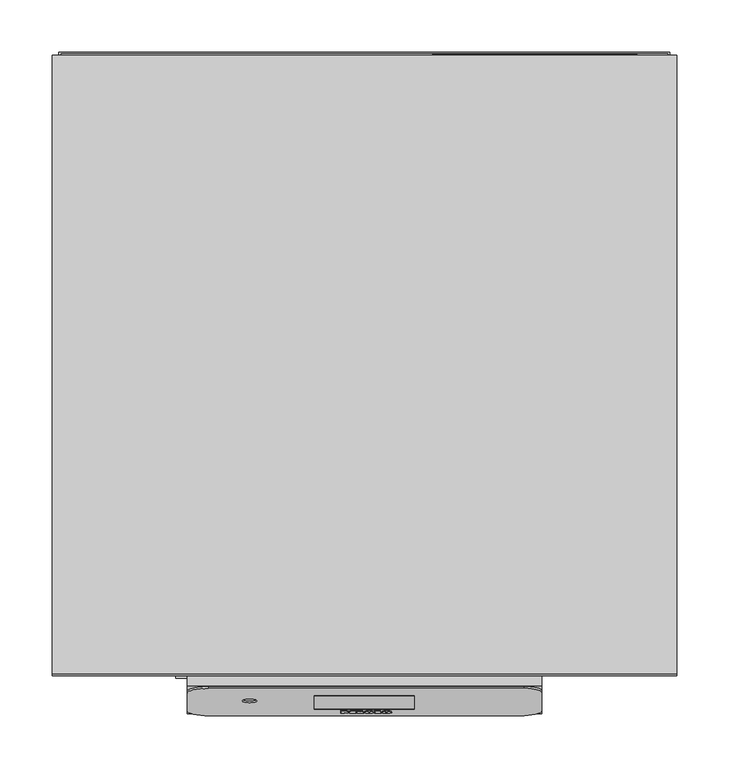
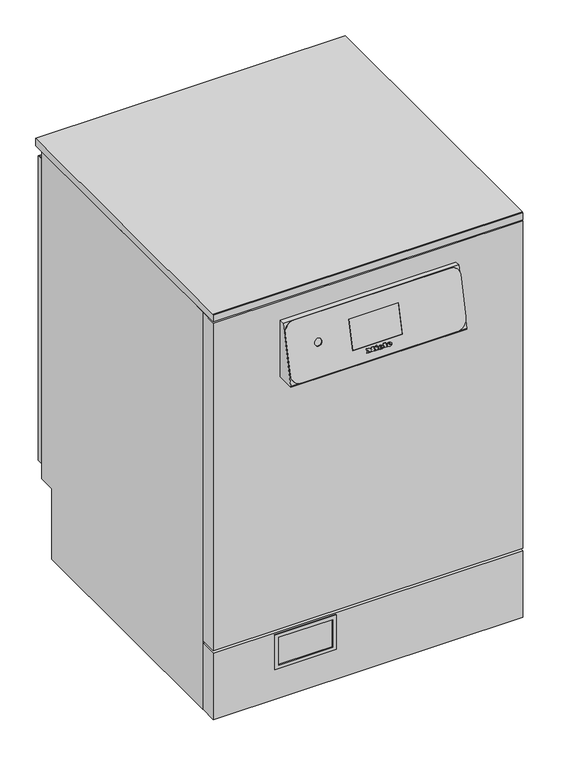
"""IFC4 building model written with IfcOpenShell, lengths in millimetres: proxy geometry, 12065300_DAC_PFD404_LW : 61040401_DAC_12065300_PFD404_LW."""

from ifc_helpers import new_model, si_unit, point, frame, frame_2d, origin, origin_with_axes, place, context, project, spatial, polyline, circle_curve, ellipse_curve, trimmed, segment, composite_curve, outline, extrude, faceted_brep, source, transform, mapped, element, save
from ifc_brep_helpers import plane_surface, cylinder_surface, revolved_surface, extruded_surface, advanced_brep


def specialty_equipment_717b9cd6(model_context):
    return source(origin(), model_context, "Body", "SolidModel", [
        advanced_brep(
        [(20.656, -35.3539089, 679.552071), (20.656, -35.1721485, 680.339362), (26.008, -35.1721485, 680.339362), (16.696, -35.1721485, 680.339362), (18.896, -35.7804161, 677.7046654), (25.872, -35.3539089, 679.552071), (23.456, -35.3539089, 679.552071), (21.552, -35.5554651, 678.6790354), (20.656, -34.9417986, 681.337117), (20.656, -34.7456413, 682.1867677), (22.024, -34.7456413, 682.1867677), (22.024, -34.9417986, 681.337117), (20.656, -34.3795388, 679.3271199), (21.552, -34.581095, 678.4540844), (23.456, -34.3795388, 679.3271199), (25.872, -34.3795388, 679.3271199), (18.896, -34.806046, 677.4797143), (16.696, -34.1977784, 680.114411), (26.008, -34.1977784, 680.114411), (20.656, -34.1977784, 680.114411), (20.656, -33.9674285, 681.1121659), (22.024, -33.9674285, 681.1121659), (22.024, -33.7712712, 681.9618166), (20.656, -33.7712712, 681.9618166)],
        [
            (0, 1),
            (1, 2),
            (2, 3, ellipse_curve(frame((21.352, -35.1721485, 680.339362), z_axis=(0.0, -0.9743700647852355, 0.22495105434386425), x_axis=(-1.0, 0.0, 0.0)), 4.656, 3.848)),
            (3, 4, circle_curve(frame((19.7920436, -35.1109618, 680.6043907), z_axis=(0.0, -0.9743700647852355, 0.22495105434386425), x_axis=(0.0, -0.22495105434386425, -0.9743700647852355)), 3.1079688)),
            (4, 5, circle_curve(frame((21.2587936, -34.6358651, 682.6622603), z_axis=(0.0, -0.9743700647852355, 0.22495105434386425), x_axis=(0.0, -0.22495105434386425, -0.9743700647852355)), 5.6098607)),
            (5, 6),
            (6, 7, circle_curve(frame((21.9430588, -35.1865453, 680.2770023), z_axis=(0.0, 0.9743700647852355, -0.22495105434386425), x_axis=(0.0, -0.22495105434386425, -0.9743700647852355)), 1.6859795)),
            (7, 0, circle_curve(frame((21.552, -35.3539089, 679.552071), z_axis=(0.0, 0.9743700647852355, -0.22495105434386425), x_axis=(0.0, -0.22495105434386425, -0.9743700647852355)), 0.896)),
            (8, 9),
            (9, 10, circle_curve(frame((21.34, -34.7456413, 682.1867677), z_axis=(0.0, 0.9743700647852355, -0.22495105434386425), x_axis=(0.0, -0.22495105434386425, -0.9743700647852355)), 0.684)),
            (10, 11),
            (11, 8),
            (12, 13, circle_curve(frame((21.552, -34.3795388, 679.3271199), z_axis=(0.0, -0.9743700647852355, 0.22495105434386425), x_axis=(0.0, -0.22495105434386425, -0.9743700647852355)), 0.896)),
            (13, 14, circle_curve(frame((21.9430588, -34.2121753, 680.0520513), z_axis=(0.0, -0.9743700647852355, 0.22495105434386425), x_axis=(0.0, -0.22495105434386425, -0.9743700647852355)), 1.6859795)),
            (14, 15),
            (15, 16, circle_curve(frame((21.2587936, -33.6614951, 682.4373092), z_axis=(0.0, 0.9743700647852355, -0.22495105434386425), x_axis=(0.0, -0.22495105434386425, -0.9743700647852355)), 5.6098607)),
            (16, 17, circle_curve(frame((19.7920436, -34.1365917, 680.3794396), z_axis=(0.0, 0.9743700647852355, -0.22495105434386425), x_axis=(0.0, -0.22495105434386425, -0.9743700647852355)), 3.1079688)),
            (17, 18, ellipse_curve(frame((21.352, -34.1977784, 680.114411), z_axis=(0.0, 0.9743700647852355, -0.22495105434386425), x_axis=(-1.0, 0.0, 0.0)), 4.656, 3.848)),
            (18, 19),
            (19, 12),
            (20, 21),
            (21, 22),
            (22, 23, circle_curve(frame((21.34, -33.7712712, 681.9618166), z_axis=(0.0, -0.9743700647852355, 0.22495105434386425), x_axis=(0.0, -0.22495105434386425, -0.9743700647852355)), 0.684)),
            (23, 20),
            (0, 12),
            (19, 1),
            (18, 2),
            (5, 15),
            (14, 6),
            (17, 3),
            (13, 7),
            (16, 4),
            (8, 20),
            (23, 9),
            (22, 10),
            (21, 11),
        ],
        [
            plane_surface(frame((20.656, -35.1721485, 680.339362), z_axis=(0.0, -0.9743700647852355, 0.22495105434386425), x_axis=(0.0, 0.22495105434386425, 0.9743700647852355))),
            plane_surface(frame((20.656, -34.1977784, 680.114411), z_axis=(0.0, 0.9743700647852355, -0.22495105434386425), x_axis=(0.0, -0.22495105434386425, -0.9743700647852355))),
            plane_surface(frame((20.656, -35.3539089, 679.552071), z_axis=(1.0, 0.0, 0.0), x_axis=(0.0, 0.9743700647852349, -0.22495105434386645))),
            plane_surface(frame((20.656, -35.1721485, 680.339362), z_axis=(0.0, -0.22495105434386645, -0.9743700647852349), x_axis=(0.0, 0.9743700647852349, -0.22495105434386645))),
            plane_surface(frame((25.872, -35.3539089, 679.552071), z_axis=(0.0, 0.22495105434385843, 0.9743700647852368), x_axis=(0.0, 0.9743700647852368, -0.22495105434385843))),
            extruded_surface(trimmed(ellipse_curve(frame((21.352, -33.2234083, 679.8894599), z_axis=(0.0, -0.9743700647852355, 0.22495105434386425), x_axis=(-1.0, 0.0, 0.0)), 4.656, 3.848), [point((26.008, -33.2234083, 679.8894599))], [point((16.696, -33.2234083, 679.8894599))], True, "CARTESIAN"), (0.0, -0.9743700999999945, 0.2249510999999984), 1.0000000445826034),
            revolved_surface(polyline([(21.9430588, -34.59143807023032, 678.4092833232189), (21.9430588, -35.56580822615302, 678.6342343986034)]), (21.9430588, -34.2121753, 680.0520513), (0.0, 0.9743700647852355, -0.22495105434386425)),
            revolved_surface(polyline([(21.552, -34.581094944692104, 678.4540843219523), (21.552, -35.5554651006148, 678.679035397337)]), (21.552, -34.3795388, 679.3271199), (0.0, 0.9743700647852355, -0.22495105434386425)),
            cylinder_surface(frame((19.7920436, -34.1365917, 680.3794396), z_axis=(0.0, -0.9743700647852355, 0.22495105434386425), x_axis=(0.0, -0.22495105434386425, -0.9743700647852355)), 3.1079688),
            cylinder_surface(frame((21.2587936, -33.6614951, 682.4373092), z_axis=(0.0, -0.9743700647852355, 0.22495105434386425), x_axis=(0.0, -0.22495105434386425, -0.9743700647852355)), 5.6098607),
            plane_surface(frame((20.656, -34.9417986, 681.337117), z_axis=(1.0, 0.0, 0.0), x_axis=(0.0, 0.9743700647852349, -0.22495105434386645))),
            revolved_surface(polyline([(21.34, -33.925137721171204, 681.2953474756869), (21.34, -34.8995078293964, 681.5202985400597)]), (21.34, -33.7712712, 681.9618166), (0.0, 0.9743700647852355, -0.22495105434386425)),
            plane_surface(frame((22.024, -34.7456413, 682.1867677), z_axis=(-1.0, 0.0, 0.0), x_axis=(0.0, 0.9743700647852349, -0.22495105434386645))),
            plane_surface(frame((22.024, -34.9417986, 681.337117), z_axis=(0.0, 0.22495105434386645, 0.9743700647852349), x_axis=(0.0, 0.9743700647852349, -0.22495105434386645))),
        ],
        [
            (0, [[1, 2, 3, 4, 5, 6, 7, 8], [9, 10, 11, 12]]),
            (1, [[13, 14, 15, 16, 17, 18, 19, 20], [21, 22, 23, 24]]),
            (2, [[-1, 25, -20, 26]]),
            (3, [[-2, -26, -19, 27]]),
            (4, [[-6, 28, -15, 29]]),
            (5, [[-3, -27, -18, 30]]),
            (6, [[-7, -29, -14, 31]]),
            (7, [[-8, -31, -13, -25]]),
            (8, [[-4, -30, -17, 32]]),
            (9, [[-5, -32, -16, -28]]),
            (10, [[-9, 33, -24, 34]]),
            (11, [[-10, -34, -23, 35]]),
            (12, [[-11, -35, -22, 36]]),
            (13, [[-12, -36, -21, -33]]),
        ],
    ),
        advanced_brep(
        [(3.96, -35.3539089, 679.552071), (3.96, -35.1721485, 680.339362), (9.312, -35.1721485, 680.339362), (0.0, -35.1721485, 680.339362), (2.2, -35.7804161, 677.7046654), (9.176, -35.3539089, 679.552071), (6.76, -35.3539089, 679.552071), (4.856, -35.5554651, 678.6790354), (3.96, -34.9417986, 681.337117), (3.96, -34.7456413, 682.1867677), (5.328, -34.7456413, 682.1867677), (5.328, -34.9417986, 681.337117), (3.96, -34.3795388, 679.3271199), (4.856, -34.581095, 678.4540844), (6.76, -34.3795388, 679.3271199), (9.176, -34.3795388, 679.3271199), (2.2, -34.806046, 677.4797143), (0.0, -34.1977784, 680.114411), (9.312, -34.1977784, 680.114411), (3.96, -34.1977784, 680.114411), (3.96, -33.9674285, 681.1121659), (5.328, -33.9674285, 681.1121659), (5.328, -33.7712712, 681.9618166), (3.96, -33.7712712, 681.9618166)],
        [
            (0, 1),
            (1, 2),
            (2, 3, ellipse_curve(frame((4.656, -35.1721485, 680.339362), z_axis=(0.0, -0.9743700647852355, 0.22495105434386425), x_axis=(-1.0, 0.0, 0.0)), 4.656, 3.848)),
            (3, 4, circle_curve(frame((3.0960436, -35.1109618, 680.6043907), z_axis=(0.0, -0.9743700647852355, 0.22495105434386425), x_axis=(0.0, -0.22495105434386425, -0.9743700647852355)), 3.1079688)),
            (4, 5, circle_curve(frame((4.5627936, -34.6358651, 682.6622603), z_axis=(0.0, -0.9743700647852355, 0.22495105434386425), x_axis=(0.0, -0.22495105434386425, -0.9743700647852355)), 5.6098607)),
            (5, 6),
            (6, 7, circle_curve(frame((5.2470588, -35.1865453, 680.2770023), z_axis=(0.0, 0.9743700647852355, -0.22495105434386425), x_axis=(0.0, -0.22495105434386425, -0.9743700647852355)), 1.6859795)),
            (7, 0, circle_curve(frame((4.856, -35.3539089, 679.552071), z_axis=(0.0, 0.9743700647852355, -0.22495105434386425), x_axis=(0.0, -0.22495105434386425, -0.9743700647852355)), 0.896)),
            (8, 9),
            (9, 10, circle_curve(frame((4.644, -34.7456413, 682.1867677), z_axis=(0.0, 0.9743700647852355, -0.22495105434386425), x_axis=(0.0, -0.22495105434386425, -0.9743700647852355)), 0.684)),
            (10, 11),
            (11, 8),
            (12, 13, circle_curve(frame((4.856, -34.3795388, 679.3271199), z_axis=(0.0, -0.9743700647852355, 0.22495105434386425), x_axis=(0.0, -0.22495105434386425, -0.9743700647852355)), 0.896)),
            (13, 14, circle_curve(frame((5.2470588, -34.2121753, 680.0520513), z_axis=(0.0, -0.9743700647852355, 0.22495105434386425), x_axis=(0.0, -0.22495105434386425, -0.9743700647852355)), 1.6859795)),
            (14, 15),
            (15, 16, circle_curve(frame((4.5627936, -33.6614951, 682.4373092), z_axis=(0.0, 0.9743700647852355, -0.22495105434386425), x_axis=(0.0, -0.22495105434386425, -0.9743700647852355)), 5.6098607)),
            (16, 17, circle_curve(frame((3.0960436, -34.1365917, 680.3794396), z_axis=(0.0, 0.9743700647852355, -0.22495105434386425), x_axis=(0.0, -0.22495105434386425, -0.9743700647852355)), 3.1079688)),
            (17, 18, ellipse_curve(frame((4.656, -34.1977784, 680.114411), z_axis=(0.0, 0.9743700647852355, -0.22495105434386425), x_axis=(-1.0, 0.0, 0.0)), 4.656, 3.848)),
            (18, 19),
            (19, 12),
            (20, 21),
            (21, 22),
            (22, 23, circle_curve(frame((4.644, -33.7712712, 681.9618166), z_axis=(0.0, -0.9743700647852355, 0.22495105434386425), x_axis=(0.0, -0.22495105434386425, -0.9743700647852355)), 0.684)),
            (23, 20),
            (0, 12),
            (19, 1),
            (18, 2),
            (5, 15),
            (14, 6),
            (17, 3),
            (13, 7),
            (16, 4),
            (8, 20),
            (23, 9),
            (22, 10),
            (21, 11),
        ],
        [
            plane_surface(frame((3.96, -35.1721485, 680.339362), z_axis=(0.0, -0.9743700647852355, 0.22495105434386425), x_axis=(0.0, 0.22495105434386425, 0.9743700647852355))),
            plane_surface(frame((3.96, -34.1977784, 680.114411), z_axis=(0.0, 0.9743700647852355, -0.22495105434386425), x_axis=(0.0, -0.22495105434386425, -0.9743700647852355))),
            plane_surface(frame((3.96, -35.3539089, 679.552071), z_axis=(1.0, 0.0, 0.0), x_axis=(0.0, 0.9743700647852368, -0.22495105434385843))),
            plane_surface(frame((3.96, -35.1721485, 680.339362), z_axis=(0.0, -0.22495105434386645, -0.9743700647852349), x_axis=(0.0, 0.9743700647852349, -0.22495105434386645))),
            plane_surface(frame((9.176, -35.3539089, 679.552071), z_axis=(0.0, 0.22495105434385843, 0.9743700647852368), x_axis=(0.0, 0.9743700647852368, -0.22495105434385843))),
            extruded_surface(trimmed(ellipse_curve(frame((4.656, -33.2234083, 679.8894599), z_axis=(0.0, -0.9743700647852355, 0.22495105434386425), x_axis=(-1.0, 0.0, 0.0)), 4.656, 3.848), [point((9.312, -33.2234083, 679.8894599))], [point((0.0, -33.2234083, 679.8894599))], True, "CARTESIAN"), (0.0, -0.9743700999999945, 0.2249510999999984), 1.0000000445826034),
            revolved_surface(polyline([(5.2470588, -34.59143807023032, 678.4092833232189), (5.2470588, -35.56580822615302, 678.6342343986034)]), (5.2470588, -34.2121753, 680.0520513), (0.0, 0.9743700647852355, -0.22495105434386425)),
            revolved_surface(polyline([(4.856, -34.581094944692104, 678.4540843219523), (4.856, -35.5554651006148, 678.679035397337)]), (4.856, -34.3795388, 679.3271199), (0.0, 0.9743700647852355, -0.22495105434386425)),
            cylinder_surface(frame((3.0960436, -34.1365917, 680.3794396), z_axis=(0.0, -0.9743700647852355, 0.22495105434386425), x_axis=(0.0, -0.22495105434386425, -0.9743700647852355)), 3.1079688),
            cylinder_surface(frame((4.5627936, -33.6614951, 682.4373092), z_axis=(0.0, -0.9743700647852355, 0.22495105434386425), x_axis=(0.0, -0.22495105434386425, -0.9743700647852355)), 5.6098607),
            plane_surface(frame((3.96, -34.9417986, 681.337117), z_axis=(1.0, 0.0, 0.0), x_axis=(0.0, 0.9743700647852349, -0.22495105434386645))),
            revolved_surface(polyline([(4.644, -33.925137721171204, 681.2953474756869), (4.644, -34.8995078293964, 681.5202985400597)]), (4.644, -33.7712712, 681.9618166), (0.0, 0.9743700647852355, -0.22495105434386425)),
            plane_surface(frame((5.328, -34.7456413, 682.1867677), z_axis=(-1.0, 0.0, 0.0), x_axis=(0.0, 0.9743700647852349, -0.22495105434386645))),
            plane_surface(frame((5.328, -34.9417986, 681.337117), z_axis=(0.0, 0.22495105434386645, 0.9743700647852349), x_axis=(0.0, 0.9743700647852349, -0.22495105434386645))),
        ],
        [
            (0, [[1, 2, 3, 4, 5, 6, 7, 8], [9, 10, 11, 12]]),
            (1, [[13, 14, 15, 16, 17, 18, 19, 20], [21, 22, 23, 24]]),
            (2, [[-1, 25, -20, 26]]),
            (3, [[-2, -26, -19, 27]]),
            (4, [[-6, 28, -15, 29]]),
            (5, [[-3, -27, -18, 30]]),
            (6, [[-7, -29, -14, 31]]),
            (7, [[-8, -31, -13, -25]]),
            (8, [[-4, -30, -17, 32]]),
            (9, [[-5, -32, -16, -28]]),
            (10, [[-9, 33, -24, 34]]),
            (11, [[-10, -34, -23, 35]]),
            (12, [[-11, -35, -22, 36]]),
            (13, [[-12, -36, -21, -33]]),
        ],
    ),
        extrude(outline(polyline([(0.0, 0.0), (-0.0109087, -2.9993294), (-1.4390415, -2.9920868), (-1.4315307, 0.0), (0.0, 0.0)])), frame((-4.784, -33.1126145, 684.8147722), z_axis=(0.0, -0.9743700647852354, 0.22495105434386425), x_axis=(-0.42472021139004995, 0.20365373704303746, 0.8821212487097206)), (0.0, 0.0, 1.0), 1.0),
        extrude(outline(polyline([(-0.4933908, 2.4141097), (-2.7800844, -2.4601583), (-7.0459742, -0.4588767), (-7.4401146, -1.2990179), (-8.6568709, -0.728194), (-5.9760369, 4.9862153), (-4.7592806, 4.4153913), (-5.1636142, 3.5535222), (-2.1941494, 2.16044), (-1.7898157, 3.022309), (-0.4933908, 2.4141097)])), frame((-4.784, -33.1126145, 684.8147722), z_axis=(0.0, -0.9743700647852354, 0.22495105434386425), x_axis=(-0.42472021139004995, 0.20365373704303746, 0.8821212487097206)), (0.0, 0.0, 1.0), 1.0),
        extrude(outline(polyline([(0.0, 0.0), (0.0, -1.3039999), (-5.504, -1.3039999), (-5.504, 5.352), (-6.488, 5.352), (-6.488, 6.696), (0.0, 6.696), (0.0, 5.352), (-0.96, 5.352), (-0.96, 0.0), (0.0, 0.0)])), frame((9.76, -33.2997738, 684.0040963), z_axis=(0.0, -0.9743700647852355, 0.22495105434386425), x_axis=(-1.0, 0.0, 0.0)), (0.0, 0.0, 1.0), 1.0),
        extrude(outline(polyline([(0.0, 0.0), (0.0, -1.3039999), (-5.576, -1.3039999), (-7.92, 1.6960001), (-10.256, -1.3039999), (-15.128, -1.3039999), (-15.128, 0.0), (-14.112, 0.0), (-14.112, 5.352), (-15.128, 5.352), (-15.128, 6.696), (-8.744, 6.696), (-8.744, 5.352), (-9.728, 5.352), (-9.728, 1.8807777), (-6.136, 6.696), (-2.56, 1.9488752), (-2.56, 5.352), (-3.52, 5.352), (-3.52, 6.696), (0.0, 6.696), (0.0, 5.352), (-0.968, 5.352), (-0.968, 0.0), (0.0, 0.0)])), frame((-22.704, -33.2997738, 684.0040963), z_axis=(0.0, -0.9743700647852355, 0.22495105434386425), x_axis=(-1.0, 0.0, 0.0)), (0.0, 0.0, 1.0), 1.0),
        extrude(outline(polyline([(1.7745866, 832.3), (594.2, 832.3), (594.2, 817.0), (0.2, 817.0), (0.2, 830.7254134), (1.7745866, 832.3)])), frame((-299.0, 0.0, 0.0), z_axis=(1.0, 0.0, 0.0), x_axis=(0.0, 1.0, 0.0)), (0.0, 0.0, 1.0), 598.0),
        extrude(outline(polyline([(-0.1038681, 775.5857792), (-0.1038681, 660.0), (-36.1981904, 660.0), (-36.1981904, 662.5588517), (-10.1038681, 775.5857792), (-0.1038681, 775.5857792)])), frame((-169.8831565, 0.0, 0.0), z_axis=(1.0, 0.0, 0.0), x_axis=(0.0, 1.0, 0.0)), (0.0, 0.0, 1.0), 339.766313),
        extrude(outline(polyline([(137.0, -180.8556958), (66.1019991, -180.8556958), (66.1019991, -62.1493684), (137.0, -62.1493684), (137.0, -180.8556958)]), holes=[polyline([(129.5988213, -69.1491757), (73.0575068, -69.1491757), (73.0575068, -173.1990884), (129.5988213, -173.1990884), (129.5988213, -69.1491757)])]), frame((0.0, -2.0, 0.0), z_axis=(0.0, 1.0, 0.0), x_axis=(0.0, 0.0, 1.0)), (0.0, 0.0, 1.0), 2.0),
        extrude(outline(polyline([(299.0, 34.0), (299.0, 0.0), (-299.0, 0.0), (-299.0, 34.0), (299.0, 34.0)])), frame((0.0, 0.0, 4.5), z_axis=(0.0, 0.0, 1.0), x_axis=(1.0, 0.0, 0.0)), (0.0, 0.0, 1.0), 135.5),
        extrude(outline(polyline([(299.0, 34.0), (299.0, 0.0), (-299.0, 0.0), (-299.0, 34.0), (299.0, 34.0)])), frame((0.0, 0.0, 145.0), z_axis=(0.0, 0.0, 1.0), x_axis=(1.0, 0.0, 0.0)), (0.0, 0.0, 1.0), 670.0),
        advanced_brep(
        [(153.3281651, -12.0526082, 776.0356813), (-148.8831565, -12.0526082, 776.0356813), (-169.8831565, -16.7765804, 755.57391), (-169.8831565, -33.4229584, 683.4705252), (-148.8831565, -38.1469305, 663.0087538), (148.8831565, -38.1469305, 663.0087538), (169.8831565, -33.4229584, 683.4705252), (169.8831565, -15.776671, 759.9049933), (48.0, -18.9868916, 746.0), (48.0, -31.9155103, 690.0), (-48.0, -31.9155103, 690.0), (-48.0, -18.9868916, 746.0), (-102.8831565, -24.0088923, 724.2473253), (-116.8831565, -24.0088923, 724.2473253), (148.8831565, -36.1981904, 662.5588517), (169.8831565, -31.4742182, 683.0206231), (169.8831565, -13.8279308, 759.4550912), (153.3281651, -10.1038681, 775.5857792), (48.0, -16.9342834, 746.0), (48.0, -29.8629021, 690.0), (-48.0, -29.8629021, 690.0), (-48.0, -16.9342834, 746.0), (-148.8831565, -36.1981904, 662.5588517), (-169.8831565, -31.4742182, 683.0206231), (-169.8831565, -14.8278402, 755.1240079), (-148.8831565, -10.1038681, 775.5857792), (-116.8831565, -22.4281396, 723.8823798), (-102.8831565, -22.4281396, 723.8823798)],
        [
            (0, 1),
            (1, 2, circle_curve(frame((-148.8831565, -16.7765804, 755.57391), z_axis=(0.0, -0.9743700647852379, 0.22495105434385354), x_axis=(1.0, 0.0, 0.0)), 21.0)),
            (2, 3),
            (3, 4, circle_curve(frame((-148.8831565, -33.4229584, 683.4705252), z_axis=(0.0, -0.9743700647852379, 0.22495105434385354), x_axis=(1.0, 0.0, 0.0)), 21.0)),
            (4, 5),
            (5, 6, circle_curve(frame((148.8831565, -33.4229584, 683.4705252), z_axis=(0.0, -0.9743700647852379, 0.22495105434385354), x_axis=(1.0, 0.0, 0.0)), 21.0)),
            (6, 7),
            (7, 0, circle_curve(frame((153.3281651, -15.776671, 759.9049933), z_axis=(0.0, -0.9743700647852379, 0.22495105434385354), x_axis=(1.0, 0.0, 0.0)), 16.5549913)),
            (8, 9),
            (9, 10),
            (10, 11),
            (11, 8),
            (12, 13, circle_curve(frame((-109.8831565, -24.0088923, 724.2473253), z_axis=(0.0, 0.9743700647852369, -0.22495105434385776), x_axis=(1.0, 0.0, 0.0)), 7.0)),
            (13, 12, circle_curve(frame((-109.8831565, -24.0088923, 724.2473253), z_axis=(0.0, 0.9743700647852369, -0.22495105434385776), x_axis=(1.0, 0.0, 0.0)), 7.0)),
            (5, 14),
            (14, 15, circle_curve(frame((148.8831565, -31.4742182, 683.0206231), z_axis=(0.0, -0.9743700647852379, 0.22495105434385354), x_axis=(1.0, 0.0, 0.0)), 21.0)),
            (15, 6),
            (15, 16),
            (16, 7),
            (16, 17, circle_curve(frame((153.3281651, -13.8279308, 759.4550912), z_axis=(0.0, -0.9743700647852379, 0.22495105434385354), x_axis=(1.0, 0.0, 0.0)), 16.5549913)),
            (17, 0),
            (8, 18),
            (18, 19),
            (19, 9),
            (19, 20),
            (20, 10),
            (11, 21),
            (21, 18),
            (20, 21),
            (14, 22),
            (22, 23, circle_curve(frame((-148.8831565, -31.4742182, 683.0206231), z_axis=(0.0, 0.9743700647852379, -0.22495105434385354), x_axis=(1.0, 0.0, 0.0)), 21.0)),
            (23, 24),
            (24, 25, circle_curve(frame((-148.8831565, -14.8278402, 755.1240079), z_axis=(0.0, 0.9743700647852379, -0.22495105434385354), x_axis=(1.0, 0.0, 0.0)), 21.0)),
            (25, 17),
            (25, 1),
            (24, 2),
            (23, 3),
            (22, 4),
            (26, 27, circle_curve(frame((-109.8831565, -22.4281396, 723.8823798), z_axis=(0.0, -0.9743700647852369, 0.22495105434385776), x_axis=(1.0, 0.0, 0.0)), 7.0)),
            (27, 26, circle_curve(frame((-109.8831565, -22.4281396, 723.8823798), z_axis=(0.0, -0.9743700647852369, 0.22495105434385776), x_axis=(1.0, 0.0, 0.0)), 7.0)),
            (26, 13),
            (12, 27),
        ],
        [
            plane_surface(frame((-166.8819453, -12.0526082, 776.0356813), z_axis=(0.0, -0.9743700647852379, 0.22495105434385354), x_axis=(-1.0, 0.0, 0.0))),
            cylinder_surface(frame((148.8831565, -31.4742182, 683.0206231), z_axis=(0.0, -0.9743700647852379, 0.22495105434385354), x_axis=(1.0, 0.0, 0.0)), 21.0),
            plane_surface(frame((169.8831565, -33.4229584, 683.4705252), z_axis=(1.0000000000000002, 0.0, 0.0), x_axis=(0.0, 0.9743700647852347, -0.22495105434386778))),
            cylinder_surface(frame((153.3281651, -13.8279308, 759.4550912), z_axis=(0.0, -0.9743700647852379, 0.22495105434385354), x_axis=(1.0, 0.0, 0.0)), 16.5549913),
            plane_surface(frame((48.0, -31.9155103, 690.0), z_axis=(-1.0, 0.0, 0.0), x_axis=(0.0, 1.0, 0.0))),
            plane_surface(frame((48.0, -31.9155103, 690.0), z_axis=(0.0, 0.0, 1.0), x_axis=(-1.0, 0.0, 0.0))),
            plane_surface(frame((48.0, -16.9342834, 746.0), z_axis=(0.0, 0.0, -1.0), x_axis=(-1.0, 0.0, 0.0))),
            plane_surface(frame((-48.0, -31.9155103, 690.0), z_axis=(1.0, 0.0, 0.0), x_axis=(0.0, -1.0, 0.0))),
            plane_surface(frame((-166.8819453, -10.1038681, 775.5857792), z_axis=(0.0, 0.9743700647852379, -0.22495105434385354), x_axis=(1.0, 0.0, 0.0))),
            plane_surface(frame((153.3281651, -12.0526082, 776.0356813), z_axis=(0.0, 0.22495105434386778, 0.9743700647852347), x_axis=(0.0, 0.9743700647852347, -0.22495105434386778))),
            cylinder_surface(frame((-148.8831565, -14.8278402, 755.1240079), z_axis=(0.0, -0.9743700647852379, 0.22495105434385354), x_axis=(1.0, 0.0, 0.0)), 21.0),
            plane_surface(frame((-169.8831565, -16.7765804, 755.57391), z_axis=(-1.0, 0.0, 0.0), x_axis=(0.0, 0.9743700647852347, -0.22495105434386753))),
            cylinder_surface(frame((-148.8831565, -31.4742182, 683.0206231), z_axis=(0.0, -0.9743700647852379, 0.22495105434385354), x_axis=(1.0, 0.0, 0.0)), 21.0),
            plane_surface(frame((-148.8831565, -38.1469305, 663.0087538), z_axis=(0.0, -0.22495105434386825, -0.9743700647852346), x_axis=(0.0, 0.9743700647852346, -0.22495105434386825))),
            plane_surface(frame((-102.8831565, -22.4281396, 723.8823798), z_axis=(0.0, -0.9743700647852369, 0.2249510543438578), x_axis=(0.0, -0.2249510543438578, -0.9743700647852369))),
            revolved_surface(polyline([(-102.8831565, -24.008892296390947, 724.2473253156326), (-102.8831565, -22.4281396, 723.8823798)]), (-109.8831565, -22.4281396, 723.8823798), (0.0, -0.9743700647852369, 0.22495105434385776)),
        ],
        [
            (0, [[1, 2, 3, 4, 5, 6, 7, 8], [9, 10, 11, 12], [13, 14]]),
            (1, [[-6, 15, 16, 17]]),
            (2, [[-7, -17, 18, 19]]),
            (3, [[-8, -19, 20, 21]]),
            (4, [[22, 23, 24, -9]]),
            (5, [[-24, 25, 26, -10]]),
            (6, [[-22, -12, 27, 28]]),
            (7, [[-26, 29, -27, -11]]),
            (8, [[-20, -18, -16, 30, 31, 32, 33, 34], [-23, -28, -29, -25]]),
            (9, [[-1, -21, -34, 35]]),
            (10, [[-2, -35, -33, 36]]),
            (11, [[-3, -36, -32, 37]]),
            (12, [[-4, -37, -31, 38]]),
            (13, [[-5, -38, -30, -15]]),
            (14, [[39, 40]]),
            (15, [[-39, 41, -13, 42]]),
            (15, [[-40, -42, -14, -41]]),
        ],
    ),
        extrude(outline(polyline([(-29.8629021, 690.0), (-31.9155103, 690.0), (-18.9868916, 746.0), (-16.9342834, 746.0), (-29.8629021, 690.0)])), frame((-48.0, 0.0, 0.0), z_axis=(1.0, 0.0, 0.0), x_axis=(0.0, 1.0, 0.0)), (0.0, 0.0, 1.0), 96.0),
        extrude(outline(polyline([(35.0, 817.0), (575.0, 817.0), (575.0, 148.0), (541.0, 148.0), (541.0, 4.2000122), (35.0, 4.2000122), (35.0, 817.0)])), frame((-299.0, 0.0, 0.0), z_axis=(1.0, 0.0, 0.0), x_axis=(0.0, 1.0, 0.0)), (0.0, 0.0, 1.0), 598.0),
        extrude(outline(polyline([(-172.0947306, 541.0), (-252.9150967, 541.0), (-252.9150967, 546.8796322), (-172.0947306, 546.8796322), (-172.0947306, 541.0)])), frame((0.0, 0.0, 83.2113443), z_axis=(0.0, 0.0, 1.0), x_axis=(1.0, 0.0, 0.0)), (0.0, 0.0, 1.0), 9.5402229),
        extrude(outline(polyline([(-172.0947306, 541.0), (-252.9150967, 541.0), (-252.9150967, 546.8796322), (-172.0947306, 546.8796322), (-172.0947306, 541.0)])), frame((0.0, 0.0, 67.2113431), z_axis=(0.0, 0.0, 1.0), x_axis=(1.0, 0.0, 0.0)), (0.0, 0.0, 1.0), 9.5826234),
        extrude(outline(polyline([(-172.0947306, 541.0), (-252.9150967, 541.0), (-252.9150967, 546.8796322), (-172.0947306, 546.8796322), (-172.0947306, 541.0)])), frame((0.0, 0.0, 49.1113767), z_axis=(0.0, 0.0, 1.0), x_axis=(1.0, 0.0, 0.0)), (0.0, 0.0, 1.0), 11.5700235),
        faceted_brep([(292.4999939, 597.3069992, 792.0057337), (-292.5000061, 597.3069992, 792.0057337), (-292.5000061, 575.0, 792.0057337), (-291.0000061, 575.0, 792.0057337), (-291.0000061, 596.3069992, 792.0057337), (290.9999949, 596.3069992, 792.0057337), (290.9999949, 575.0, 792.0057337), (292.4999939, 575.0, 792.0057337), (292.4999939, 597.3069992, 170.291519), (292.4999939, 575.0, 170.291519), (290.9999949, 575.0, 170.291519), (290.9999949, 596.3069992, 170.291519), (-291.0000061, 596.3069992, 170.291519), (-291.0000061, 575.0, 170.291519), (-292.5000061, 575.0, 170.291519), (-292.5000061, 597.3069992, 170.291519), (-200.000102, 597.3069992, 319.6113699), (-200.000102, 597.3069992, 244.365213), (-125.000102, 597.3069992, 244.365213), (-125.000102, 597.3069992, 319.6113699), (-200.000102, 596.3069992, 244.365213), (-200.000102, 596.3069992, 319.6113699), (-125.000102, 596.3069992, 319.6113699), (-125.000102, 596.3069992, 244.365213)], [[[0, 1, 2, 3, 4, 5, 6, 7]], [[8, 9, 10, 11, 12, 13, 14, 15]], [[1, 0, 8, 15], [16, 17, 18, 19]], [[2, 1, 15, 14]], [[3, 2, 14, 13]], [[4, 3, 13, 12]], [[5, 4, 12, 11], [20, 21, 22, 23]], [[6, 5, 11, 10]], [[7, 6, 10, 9]], [[0, 7, 9, 8]], [[20, 17, 16, 21]], [[17, 20, 23, 18]], [[18, 23, 22, 19]], [[21, 16, 19, 22]]]),
        extrude(outline(polyline([(48.0999756, 96.1730873), (58.1456066, 98.9125818), (58.1456066, 97.6176372), (51.5433511, 96.028387), (49.5052848, 95.5378777), (51.3079066, 95.0130327), (58.1456066, 93.0215648), (58.1456066, 91.1551768), (53.1890099, 89.7081743), (49.5052848, 88.6315064), (51.4844899, 88.1557123), (58.1456066, 86.5517468), (58.1456066, 85.2568022), (48.0999756, 87.9987493), (48.0999756, 89.3402923), (55.850023, 91.7486931), (56.931596, 92.084692), (55.6292938, 92.4623842), (48.0999756, 94.6574134), (48.0999756, 96.1730873)])), frame((0.0, 571.0, 0.0), z_axis=(0.0, 1.0, 0.0), x_axis=(0.0, 0.0, 1.0)), (0.0, 0.0, 1.0), 1.0),
        extrude(outline(polyline([(48.0999756, 82.2033816), (58.1456066, 84.9428762), (58.1456066, 83.6479316), (51.5433511, 82.0586814), (49.5052848, 81.568172), (51.3079066, 81.0433271), (58.1456066, 79.0518592), (58.1456066, 77.1854712), (53.1890099, 75.7384687), (49.5052848, 74.6618007), (51.4844899, 74.1860067), (58.1456066, 72.5820412), (58.1456066, 71.2870966), (48.0999756, 74.0290437), (48.0999756, 75.3705867), (55.850023, 77.7789875), (56.931596, 78.1149864), (55.6292938, 78.4926786), (48.0999756, 80.6877078), (48.0999756, 82.2033816)])), frame((0.0, 571.0, 0.0), z_axis=(0.0, 1.0, 0.0), x_axis=(0.0, 0.0, 1.0)), (0.0, 0.0, 1.0), 1.0),
        extrude(outline(polyline([(56.599963, 201.5578418), (66.645594, 204.2973364), (66.645594, 203.0023917), (60.0433385, 201.4131415), (58.0052722, 200.9226322), (59.807894, 200.3977872), (66.645594, 198.4063193), (66.645594, 196.5399313), (61.6889973, 195.0929288), (58.0052722, 194.0162609), (59.9844773, 193.5404668), (66.645594, 191.9365013), (66.645594, 190.6415567), (56.599963, 193.3835038), (56.599963, 194.7250468), (64.3500104, 197.1334476), (65.4315834, 197.4694465), (64.1292812, 197.8471387), (56.599963, 200.0421679), (56.599963, 201.5578418)])), frame((0.0, 571.0, 0.0), z_axis=(0.0, 1.0, 0.0), x_axis=(0.0, 0.0, 1.0)), (0.0, 0.0, 1.0), 1.0),
        extrude(outline(polyline([(56.599963, 212.6163745), (66.645594, 212.6163745), (66.645594, 211.3606707), (61.728238, 211.3606707), (66.645594, 206.2103227), (66.645594, 204.4542993), (62.5155055, 208.7781391), (56.599963, 204.2973364), (56.599963, 205.8326305), (61.6669243, 209.6684135), (60.0531487, 211.3606707), (56.599963, 211.3606707), (56.599963, 212.6163745)])), frame((0.0, 571.0, 0.0), z_axis=(0.0, 1.0, 0.0), x_axis=(0.0, 0.0, 1.0)), (0.0, 0.0, 1.0), 1.0),
        extrude(outline(composite_curve([segment(trimmed(circle_curve(frame_2d((61.599963, 202.0998546)), 8.0), [point((61.599963, 194.0998546))], [point((61.599963, 210.0998546))], False, "CARTESIAN"), True, "CONTINUOUS"), segment(trimmed(circle_curve(frame_2d((61.599963, 202.0998546)), 8.0), [point((61.599963, 210.0998546))], [point((61.599963, 194.0998546))], False, "CARTESIAN"), True, "CONTINUOUS")], self_intersect=False)), frame((0.0, 541.0, 0.0), z_axis=(0.0, 1.0, 0.0), x_axis=(0.0, 0.0, 1.0)), (0.0, 0.0, 1.0), 30.0),
        extrude(outline(polyline([(61.1702758, 140.618963), (71.2159068, 140.618963), (71.2159068, 133.3986657), (69.960203, 133.3986657), (69.960203, 139.3632591), (66.9779062, 139.3632591), (66.9779062, 133.7125916), (65.7222024, 133.7125916), (65.7222024, 139.3632591), (62.4259797, 139.3632591), (62.4259797, 133.2417027), (61.1702758, 133.2417027), (61.1702758, 140.618963)])), frame((0.0, 571.0, 0.0), z_axis=(0.0, 1.0, 0.0), x_axis=(0.0, 0.0, 1.0)), (0.0, 0.0, 1.0), 1.0),
        extrude(outline(polyline([(61.1702758, 131.3581469), (71.2159068, 131.3581469), (71.2159068, 130.102443), (62.4259797, 130.102443), (62.4259797, 125.0796275), (61.1702758, 125.0796275), (61.1702758, 131.3581469)])), frame((0.0, 571.0, 0.0), z_axis=(0.0, 1.0, 0.0), x_axis=(0.0, 0.0, 1.0)), (0.0, 0.0, 1.0), 1.0),
        extrude(outline(polyline([(118.1398187, 18.2077062), (128.1854497, 18.2077062), (128.1854497, 14.7422578), (128.0407495, 12.9494462), (127.3221533, 11.4730132), (125.6053707, 10.283528), (123.2165903, 9.888668), (121.1895605, 10.1559956), (119.7266164, 10.8427087), (118.8154953, 11.7599611), (118.311497, 12.9604827), (118.1398187, 14.5754846), (118.1398187, 18.2077062)]), holes=[polyline([(119.3955226, 16.9520023), (119.3955226, 14.7299951), (119.5770111, 13.1137669), (120.0895933, 12.1817991), (121.3367133, 11.4178309), (123.2362106, 11.1443719), (125.6151809, 11.6802533), (126.728637, 12.9837819), (126.9297459, 14.7643307), (126.9297459, 16.9520023), (119.3955226, 16.9520023)])]), frame((0.0, 571.0, 0.0), z_axis=(0.0, 1.0, 0.0), x_axis=(0.0, 0.0, 1.0)), (0.0, 0.0, 1.0), 1.0),
        extrude(outline(polyline([(121.5930044, 8.6329642), (121.5930044, 7.3772603), (120.3360742, 6.9725901), (119.5414491, 5.9842138), (119.2385596, 4.4783502), (119.4678727, 3.1662377), (120.0981772, 2.3188828), (120.940627, 2.0405188), (121.7242156, 2.2489853), (122.2944327, 3.1024715), (122.7739056, 4.930845), (123.3931736, 6.8990137), (124.3275939, 7.9670977), (125.5759401, 8.3190382), (126.9971909, 7.8837112), (128.0002825, 6.6120657), (128.3424127, 4.7505828), (127.9843409, 2.7640201), (126.9321984, 1.4396449), (125.360116, 0.9417779), (125.360116, 2.1974818), (126.6501555, 2.9087203), (127.0867088, 4.7015319), (126.6550606, 6.4992486), (125.6127283, 7.0633343), (124.7420743, 6.6635692), (124.0406459, 4.6132402), (123.4103414, 2.391233), (122.3925346, 1.1759961), (120.9725101, 0.7848149), (119.4703253, 1.2348572), (118.3740369, 2.5298019), (117.9828557, 4.4292992), (118.4046938, 6.6721531), (119.6751129, 8.0909513), (121.5930044, 8.6329642)])), frame((0.0, 571.0, 0.0), z_axis=(0.0, 1.0, 0.0), x_axis=(0.0, 0.0, 1.0)), (0.0, 0.0, 1.0), 1.0),
        extrude(outline(composite_curve([segment(trimmed(circle_curve(frame_2d((126.8499756, 10.1811127)), 2.9851521), [point((126.8499756, 7.1959606))], [point((126.8499756, 13.1662647))], False, "CARTESIAN"), True, "CONTINUOUS"), segment(trimmed(circle_curve(frame_2d((126.8499756, 10.1811127)), 2.9851521), [point((126.8499756, 13.1662647))], [point((126.8499756, 7.1959606))], False, "CARTESIAN"), True, "CONTINUOUS")], self_intersect=False)), frame((0.0, 541.0, 0.0), z_axis=(0.0, 1.0, 0.0), x_axis=(0.0, 0.0, 1.0)), (0.0, 0.0, 1.0), 30.0),
        extrude(outline(composite_curve([segment(trimmed(circle_curve(frame_2d((117.0999756, 10.1811127)), 3.0), [point((117.0999756, 7.1811127))], [point((117.0999756, 13.1811127))], False, "CARTESIAN"), True, "CONTINUOUS"), segment(trimmed(circle_curve(frame_2d((117.0999756, 10.1811127)), 3.0), [point((117.0999756, 13.1811127))], [point((117.0999756, 7.1811127))], False, "CARTESIAN"), True, "CONTINUOUS")], self_intersect=False)), frame((0.0, 541.0, 0.0), z_axis=(0.0, 1.0, 0.0), x_axis=(0.0, 0.0, 1.0)), (0.0, 0.0, 1.0), 30.0),
        extrude(outline(composite_curve([segment(trimmed(circle_curve(frame_2d((107.3499443, 10.1811127)), 3.0), [point((107.3499443, 7.1811127))], [point((107.3499443, 13.1811127))], False, "CARTESIAN"), True, "CONTINUOUS"), segment(trimmed(circle_curve(frame_2d((107.3499443, 10.1811127)), 3.0), [point((107.3499443, 13.1811127))], [point((107.3499443, 7.1811127))], False, "CARTESIAN"), True, "CONTINUOUS")], self_intersect=False)), frame((0.0, 541.0, 0.0), z_axis=(0.0, 1.0, 0.0), x_axis=(0.0, 0.0, 1.0)), (0.0, 0.0, 1.0), 30.0),
        extrude(outline(composite_curve([segment(trimmed(circle_curve(frame_2d((136.5999756, 10.1811127)), 3.0), [point((136.5999756, 7.1811127))], [point((136.5999756, 13.1811127))], False, "CARTESIAN"), True, "CONTINUOUS"), segment(trimmed(circle_curve(frame_2d((136.5999756, 10.1811127)), 3.0), [point((136.5999756, 13.1811127))], [point((136.5999756, 7.1811127))], False, "CARTESIAN"), True, "CONTINUOUS")], self_intersect=False)), frame((0.0, 541.0, 0.0), z_axis=(0.0, 1.0, 0.0), x_axis=(0.0, 0.0, 1.0)), (0.0, 0.0, 1.0), 30.0),
        extrude(outline(polyline([(99.6239875, 19.6811122), (148.0, 19.6811122), (148.0, 1.1811127), (99.6239875, 1.1811127), (99.6239875, 19.6811122)]), holes=[polyline([(100.6239875, 18.6811122), (100.6239875, 2.1811127), (147.0, 2.1811127), (147.0, 18.6811122), (100.6239875, 18.6811122)])]), frame((0.0, 541.0, 0.0), z_axis=(0.0, 1.0, 0.0), x_axis=(0.0, 0.0, 1.0)), (0.0, 0.0, 1.0), 1.0),
        extrude(outline(polyline([(118.1398187, -7.1235653), (128.1854497, -7.1235653), (128.1854497, -10.5890137), (128.0407495, -12.3818253), (127.3221533, -13.8582584), (125.6053707, -15.0477435), (123.2165903, -15.4426035), (121.1895605, -15.1752759), (119.7266164, -14.4885629), (118.8154953, -13.5713104), (118.311497, -12.3707889), (118.1398187, -10.7557869), (118.1398187, -7.1235653)]), holes=[polyline([(119.3955226, -8.3792692), (119.3955226, -10.6012765), (119.5770111, -12.2175047), (120.0895933, -13.1494724), (121.3367133, -13.9134407), (123.2362106, -14.1868996), (125.6151809, -13.6510182), (126.728637, -12.3474897), (126.9297459, -10.5669408), (126.9297459, -8.3792692), (119.3955226, -8.3792692)])]), frame((0.0, 571.0, 0.0), z_axis=(0.0, 1.0, 0.0), x_axis=(0.0, 0.0, 1.0)), (0.0, 0.0, 1.0), 1.0),
        extrude(outline(polyline([(121.5930044, -16.6983074), (121.5930044, -17.9540113), (120.3360742, -18.3586815), (119.5414491, -19.3470578), (119.2385596, -20.8529214), (119.4678727, -22.1650338), (120.0981772, -23.0123887), (120.940627, -23.2907528), (121.7242156, -23.0822863), (122.2944327, -22.2288001), (122.7739056, -20.4004265), (123.3931736, -18.4322579), (124.3275939, -17.3641738), (125.5759401, -17.0122334), (126.9971909, -17.4475604), (128.0002825, -18.7192058), (128.3424127, -20.5806887), (127.9843409, -22.5672515), (126.9321984, -23.8916267), (125.360116, -24.3894936), (125.360116, -23.1337898), (126.6501555, -22.4225512), (127.0867088, -20.6297397), (126.6550606, -18.832023), (125.6127283, -18.2679372), (124.7420743, -18.6677023), (124.0406459, -20.7180313), (123.4103414, -22.9400386), (122.3925346, -24.1552754), (120.9725101, -24.5464566), (119.4703253, -24.0964143), (118.3740369, -22.8014697), (117.9828557, -20.9019723), (118.4046938, -18.6591184), (119.6751129, -17.2403202), (121.5930044, -16.6983074)])), frame((0.0, 571.0, 0.0), z_axis=(0.0, 1.0, 0.0), x_axis=(0.0, 0.0, 1.0)), (0.0, 0.0, 1.0), 1.0),
        extrude(outline(composite_curve([segment(trimmed(circle_curve(frame_2d((126.8499756, -15.1501589)), 2.9851521), [point((126.8499756, -18.135311))], [point((126.8499756, -12.1650068))], False, "CARTESIAN"), True, "CONTINUOUS"), segment(trimmed(circle_curve(frame_2d((126.8499756, -15.1501589)), 2.9851521), [point((126.8499756, -12.1650068))], [point((126.8499756, -18.135311))], False, "CARTESIAN"), True, "CONTINUOUS")], self_intersect=False)), frame((0.0, 541.0, 0.0), z_axis=(0.0, 1.0, 0.0), x_axis=(0.0, 0.0, 1.0)), (0.0, 0.0, 1.0), 30.0),
        extrude(outline(composite_curve([segment(trimmed(circle_curve(frame_2d((117.0999756, -15.1501589)), 3.0), [point((117.0999756, -18.1501589))], [point((117.0999756, -12.1501589))], False, "CARTESIAN"), True, "CONTINUOUS"), segment(trimmed(circle_curve(frame_2d((117.0999756, -15.1501589)), 3.0), [point((117.0999756, -12.1501589))], [point((117.0999756, -18.1501589))], False, "CARTESIAN"), True, "CONTINUOUS")], self_intersect=False)), frame((0.0, 541.0, 0.0), z_axis=(0.0, 1.0, 0.0), x_axis=(0.0, 0.0, 1.0)), (0.0, 0.0, 1.0), 30.0),
        extrude(outline(composite_curve([segment(trimmed(circle_curve(frame_2d((107.3499443, -15.1501589)), 3.0), [point((107.3499443, -18.1501589))], [point((107.3499443, -12.1501589))], False, "CARTESIAN"), True, "CONTINUOUS"), segment(trimmed(circle_curve(frame_2d((107.3499443, -15.1501589)), 3.0), [point((107.3499443, -12.1501589))], [point((107.3499443, -18.1501589))], False, "CARTESIAN"), True, "CONTINUOUS")], self_intersect=False)), frame((0.0, 541.0, 0.0), z_axis=(0.0, 1.0, 0.0), x_axis=(0.0, 0.0, 1.0)), (0.0, 0.0, 1.0), 30.0),
        extrude(outline(composite_curve([segment(trimmed(circle_curve(frame_2d((136.5999756, -15.1501589)), 3.0), [point((136.5999756, -18.1501589))], [point((136.5999756, -12.1501589))], False, "CARTESIAN"), True, "CONTINUOUS"), segment(trimmed(circle_curve(frame_2d((136.5999756, -15.1501589)), 3.0), [point((136.5999756, -12.1501589))], [point((136.5999756, -18.1501589))], False, "CARTESIAN"), True, "CONTINUOUS")], self_intersect=False)), frame((0.0, 541.0, 0.0), z_axis=(0.0, 1.0, 0.0), x_axis=(0.0, 0.0, 1.0)), (0.0, 0.0, 1.0), 30.0),
        extrude(outline(polyline([(99.6239875, -5.6501594), (148.0, -5.6501594), (148.0, -24.1501589), (99.6239875, -24.1501589), (99.6239875, -5.6501594)]), holes=[polyline([(100.6239875, -6.6501594), (100.6239875, -23.1501589), (147.0, -23.1501589), (147.0, -6.6501594), (100.6239875, -6.6501594)])]), frame((0.0, 541.0, 0.0), z_axis=(0.0, 1.0, 0.0), x_axis=(0.0, 0.0, 1.0)), (0.0, 0.0, 1.0), 1.0),
        extrude(outline(polyline([(294.0108337, -153.1353281), (304.0564648, -153.1353281), (304.0564648, -156.6007765), (303.9117645, -158.3935881), (303.1931683, -159.8700212), (301.4763857, -161.0595063), (299.0876053, -161.4543663), (297.0605755, -161.1870387), (295.5976314, -160.5003256), (294.6865103, -159.5830732), (294.182512, -158.3825516), (294.0108337, -156.7675497), (294.0108337, -153.1353281)]), holes=[polyline([(295.2665376, -154.391032), (295.2665376, -156.6130392), (295.4480261, -158.2292675), (295.9606083, -159.1612352), (297.2077283, -159.9252035), (299.1072256, -160.1986624), (301.4861959, -159.662781), (302.5996521, -158.3592524), (302.8007609, -156.5787036), (302.8007609, -154.391032), (295.2665376, -154.391032)])]), frame((0.0, 585.0, 0.0), z_axis=(0.0, 1.0, 0.0), x_axis=(0.0, 0.0, 1.0)), (0.0, 0.0, 1.0), 1.0),
        extrude(outline(polyline([(297.4640194, -162.7100702), (297.4640194, -163.965774), (296.2070893, -164.3704442), (295.4124641, -165.3588205), (295.1095746, -166.8646842), (295.3388877, -168.1767966), (295.9691922, -169.0241515), (296.811642, -169.3025155), (297.5952306, -169.094049), (298.1654477, -168.2405628), (298.6449206, -166.4121893), (299.2641886, -164.4440206), (300.1986089, -163.3759366), (301.4469551, -163.0239961), (302.8682059, -163.4593232), (303.8712975, -164.7309686), (304.2134277, -166.5924515), (303.8553559, -168.5790143), (302.8032134, -169.9033894), (301.231131, -170.4012564), (301.231131, -169.1455525), (302.5211706, -168.434314), (302.9577239, -166.6415024), (302.5260757, -164.8437857), (301.4837433, -164.2797), (300.6130893, -164.6794651), (299.9116609, -166.7297941), (299.2813565, -168.9518013), (298.2635496, -170.1670382), (296.8435251, -170.5582194), (295.3413403, -170.1081771), (294.2450519, -168.8132325), (293.8538708, -166.9137351), (294.2757088, -164.6708812), (295.5461279, -163.252083), (297.4640194, -162.7100702)])), frame((0.0, 585.0, 0.0), z_axis=(0.0, 1.0, 0.0), x_axis=(0.0, 0.0, 1.0)), (0.0, 0.0, 1.0), 1.0),
        extrude(outline(composite_curve([segment(trimmed(circle_curve(frame_2d((299.0108337, -161.6898108)), 35.0), [point((299.0108337, -196.6898108))], [point((299.0108337, -126.6898108))], False, "CARTESIAN"), True, "CONTINUOUS"), segment(trimmed(circle_curve(frame_2d((299.0108337, -161.6898108)), 35.0), [point((299.0108337, -126.6898108))], [point((299.0108337, -196.6898108))], False, "CARTESIAN"), True, "CONTINUOUS")], self_intersect=False)), frame((0.0, 575.0, 0.0), z_axis=(0.0, 1.0, 0.0), x_axis=(0.0, 0.0, 1.0)), (0.0, 0.0, 1.0), 10.0),
        extrude(outline(polyline([(134.5999756, -252.738078), (144.6456066, -252.738078), (144.6456066, -256.4610438), (144.5499573, -257.9620023), (144.0802946, -259.1821442), (143.1090861, -259.9730905), (141.7393388, -260.2723012), (139.5688351, -259.4641871), (138.6810132, -256.5468829), (138.6810132, -253.9937818), (134.5999756, -253.9937818), (134.5999756, -252.738078)]), holes=[polyline([(139.9367171, -253.9937818), (139.9367171, -256.6204593), (140.3977958, -258.4696795), (141.695193, -259.0165974), (142.7350728, -258.6940875), (143.3040636, -257.8467326), (143.3899027, -256.5910287), (143.3899027, -253.9937818), (139.9367171, -253.9937818)])]), frame((0.0, 571.0, 0.0), z_axis=(0.0, 1.0, 0.0), x_axis=(0.0, 0.0, 1.0)), (0.0, 0.0, 1.0), 1.0),
        extrude(outline(polyline([(134.5999756, -260.8290293), (144.6456066, -264.8389431), (144.6456066, -265.9082534), (134.5999756, -269.9181671), (134.5999756, -268.5913394), (137.7392353, -267.441095), (137.7392353, -263.3036489), (134.5999756, -262.155857), (134.5999756, -260.8290293)]), holes=[polyline([(138.9949392, -263.7647276), (138.9949392, -266.9824688), (141.4646536, -266.0774791), (143.3899027, -265.3735982), (141.6804777, -264.7481988), (138.9949392, -263.7647276)])]), frame((0.0, 571.0, 0.0), z_axis=(0.0, 1.0, 0.0), x_axis=(0.0, 0.0, 1.0)), (0.0, 0.0, 1.0), 1.0),
        extrude(outline(composite_curve([segment(trimmed(circle_curve(frame_2d((139.5999756, -260.9001532)), 8.0), [point((139.5999756, -268.9001532))], [point((139.5999756, -252.9001532))], False, "CARTESIAN"), True, "CONTINUOUS"), segment(trimmed(circle_curve(frame_2d((139.5999756, -260.9001532)), 8.0), [point((139.5999756, -252.9001532))], [point((139.5999756, -268.9001532))], False, "CARTESIAN"), True, "CONTINUOUS")], self_intersect=False)), frame((0.0, 541.0, 0.0), z_axis=(0.0, 1.0, 0.0), x_axis=(0.0, 0.0, 1.0)), (0.0, 0.0, 1.0), 30.0),
        extrude(outline(composite_curve([segment(trimmed(circle_curve(frame_2d((51.0, 85.0998392)), 8.0), [point((51.0, 77.0998392))], [point((51.0, 93.0998392))], False, "CARTESIAN"), True, "CONTINUOUS"), segment(trimmed(circle_curve(frame_2d((51.0, 85.0998392)), 8.0), [point((51.0, 93.0998392))], [point((51.0, 77.0998392))], False, "CARTESIAN"), True, "CONTINUOUS")], self_intersect=False)), frame((0.0, 541.0, 0.0), z_axis=(0.0, 1.0, 0.0), x_axis=(0.0, 0.0, 1.0)), (0.0, 0.0, 1.0), 30.0),
        extrude(outline(composite_curve([segment(trimmed(circle_curve(frame_2d((66.0, 134.0)), 8.0), [point((66.0, 126.0))], [point((66.0, 142.0))], False, "CARTESIAN"), True, "CONTINUOUS"), segment(trimmed(circle_curve(frame_2d((66.0, 134.0)), 8.0), [point((66.0, 142.0))], [point((66.0, 126.0))], False, "CARTESIAN"), True, "CONTINUOUS")], self_intersect=False)), frame((0.0, 541.0, 0.0), z_axis=(0.0, 1.0, 0.0), x_axis=(0.0, 0.0, 1.0)), (0.0, 0.0, 1.0), 30.0),
        extrude(outline(polyline([(-246.8707486, 541.0), (-246.8707486, 505.0), (-294.0966381, 505.0), (-294.0966381, 541.0), (-246.8707486, 541.0)])), origin_with_axes(), (0.0, 0.0, 1.0), 4.2000122),
        extrude(outline(polyline([(246.8707486, 541.0), (294.0966381, 541.0), (294.0966381, 505.0), (246.8707486, 505.0), (246.8707486, 541.0)])), origin_with_axes(), (0.0, 0.0, 1.0), 4.2000122),
        extrude(outline(composite_curve([segment(trimmed(circle_curve(frame_2d((-269.0, 151.0)), 16.477447), [point((-285.477447, 151.0))], [point((-252.522553, 151.0))], False, "CARTESIAN"), True, "CONTINUOUS"), segment(trimmed(circle_curve(frame_2d((-269.0, 151.0)), 16.477447), [point((-252.522553, 151.0))], [point((-285.477447, 151.0))], False, "CARTESIAN"), True, "CONTINUOUS")], self_intersect=False)), origin_with_axes(), (0.0, 0.0, 1.0), 4.2000122),
        extrude(outline(composite_curve([segment(trimmed(circle_curve(frame_2d((269.0, 151.0)), 16.477447), [point((252.522553, 151.0))], [point((285.477447, 151.0))], False, "CARTESIAN"), True, "CONTINUOUS"), segment(trimmed(circle_curve(frame_2d((269.0, 151.0)), 16.477447), [point((285.477447, 151.0))], [point((252.522553, 151.0))], False, "CARTESIAN"), True, "CONTINUOUS")], self_intersect=False)), origin_with_axes(), (0.0, 0.0, 1.0), 4.2000122),
        extrude(outline(polyline([(43.7403323, 550.3224589), (41.0008378, 560.3680899), (42.2957824, 560.3680899), (43.8850326, 553.7658343), (44.3755419, 551.7277681), (44.9003869, 553.5303898), (46.8918548, 560.3680899), (48.7582428, 560.3680899), (50.2052453, 555.4114931), (51.2819133, 551.7277681), (51.7577073, 553.7069732), (53.3616728, 560.3680899), (54.6566174, 560.3680899), (51.9146703, 550.3224589), (50.5731273, 550.3224589), (48.1647265, 558.0725062), (47.8287276, 559.1540793), (47.4510354, 557.851777), (45.2560062, 550.3224589), (43.7403323, 550.3224589)])), frame((0.0, 0.0, 94.3852284), z_axis=(0.0, 0.0, 1.0), x_axis=(1.0, 0.0, 0.0)), (0.0, 0.0, 1.0), 1.0),
        extrude(outline(polyline([(54.7424566, 550.3224589), (58.7523703, 560.3680899), (59.8216806, 560.3680899), (63.8315944, 550.3224589), (62.5047667, 550.3224589), (61.3545223, 553.4617185), (57.2170761, 553.4617185), (56.0692843, 550.3224589), (54.7424566, 550.3224589)]), holes=[polyline([(57.6781549, 554.7174224), (60.8958961, 554.7174224), (59.9909064, 557.1871369), (59.2870255, 559.112386), (58.6616261, 557.402961), (57.6781549, 554.7174224)])]), frame((0.0, 0.0, 94.3852284), z_axis=(0.0, 0.0, 1.0), x_axis=(1.0, 0.0, 0.0)), (0.0, 0.0, 1.0), 1.0),
        advanced_brep(
        [(52.1828095, 541.0, 118.3852589), (52.1828095, 541.0, 134.3852589), (52.1828095, 563.3224589, 134.3852589), (52.1828095, 547.3224589, 118.3852589), (52.1828095, 547.3224589, 95.3852284), (52.1828095, 563.3224589, 95.3852284)],
        [
            (0, 1, circle_curve(frame((52.1828095, 541.0, 126.3852589), z_axis=(0.0, -1.0, 0.0), x_axis=(0.0, 0.0, 1.0)), 8.0)),
            (1, 0, circle_curve(frame((52.1828095, 541.0, 126.3852589), z_axis=(0.0, -1.0, 0.0), x_axis=(0.0, 0.0, 1.0)), 8.0)),
            (2, 3, ellipse_curve(frame((52.1828095, 555.3224589, 126.3852589), z_axis=(0.0, 0.7071067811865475, -0.7071067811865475), x_axis=(0.0, 0.7071067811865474, 0.7071067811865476)), 11.3137085, 8.0)),
            (3, 4),
            (4, 5, circle_curve(frame((52.1828095, 555.3224589, 95.3852284), z_axis=(0.0, 0.0, 1.0), x_axis=(0.0, 1.0, 0.0)), 8.0)),
            (5, 2),
            (0, 3),
            (2, 1),
            (2, 3, ellipse_curve(frame((52.1828095, 555.3224589, 126.3852589), z_axis=(0.0, -0.7071067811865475, 0.7071067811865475), x_axis=(0.0, -0.7071067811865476, -0.7071067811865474)), 11.3137085, 8.0)),
            (4, 5, circle_curve(frame((52.1828095, 555.3224589, 95.3852284), z_axis=(0.0, 0.0, -1.0), x_axis=(0.0, 1.0, 0.0)), 8.0)),
        ],
        [
            plane_surface(frame((0.0, 541.0, 126.3852589), z_axis=(0.0, -1.0, 0.0), x_axis=(1.0, 0.0, 0.0))),
            cylinder_surface(frame((52.1828095, 555.3224589, 126.3852589), z_axis=(0.0, 0.0, 1.0), x_axis=(0.0, 1.0, 0.0)), 8.0),
            cylinder_surface(frame((52.1828095, 541.0, 126.3852589), z_axis=(0.0, -1.0, 0.0), x_axis=(0.0, 0.0, 1.0)), 8.0),
            plane_surface(frame((0.0, 555.3224589, 95.3852284), z_axis=(0.0, 0.0, -1.0), x_axis=(1.0, 0.0, 0.0))),
        ],
        [
            (0, [[1, 2]]),
            (1, [[3, 4, 5, 6]]),
            (2, [[-1, 7, -3, 8]]),
            (2, [[-2, -8, 9, -7]]),
            (3, [[10, -5]]),
            (1, [[-9, -6, -10, -4]]),
        ],
    ),
        extrude(outline(polyline([(138.0, 261.5580222), (148.0, 261.5580222), (148.0, 65.0), (85.2499443, 65.0), (85.2499443, 225.8557987), (138.0, 225.8557987), (138.0, 261.5580222)])), frame((0.0, 541.0, 0.0), z_axis=(0.0, 1.0, 0.0), x_axis=(0.0, 0.0, 1.0)), (0.0, 0.0, 1.0), 54.1251226),
    ])


if __name__ == "__main__":
    model = new_model("IFC4")
    model_context = context("Model", 3, world=origin())
    ifc_project = project(units=[si_unit("LENGTHUNIT", "METRE", prefix="MILLI")], contexts=[model_context])
    site = spatial("IfcSite", under=ifc_project)
    building = spatial("IfcBuilding", under=site)
    placement = place(None, origin())
    specialty_equipment_shape = specialty_equipment_717b9cd6(model_context)
    element("IfcBuildingElementProxy", 1, Name="12065300_DAC_PFD404_LW : 61040401_DAC_12065300_PFD404_LW", ObjectType="12065300_DAC_PFD404_LW : 61040401_DAC_12065300_PFD404_LW", at=placement, inside=building, context=model_context, shape_type="MappedRepresentation", body=[
        mapped(specialty_equipment_shape, transform((0.0, 0.0, 0.0), x_axis=(1.0, 0.0, 0.0), y_axis=(0.0, 1.0, 0.0), z_axis=(0.0, 0.0, 1.0))),
    ])
    save(model, "model.ifc")
